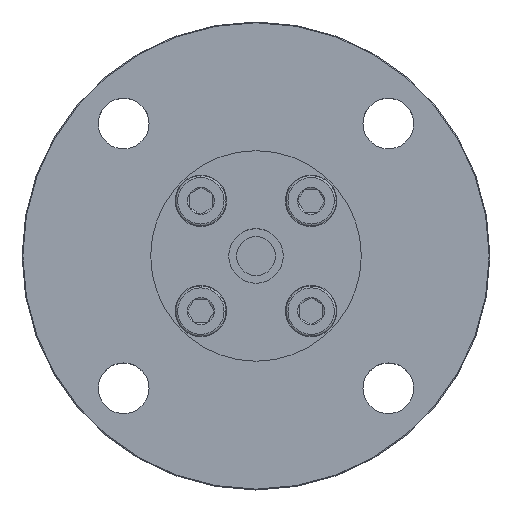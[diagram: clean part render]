
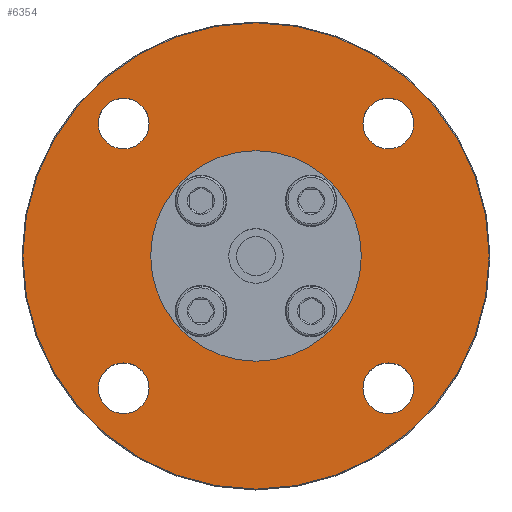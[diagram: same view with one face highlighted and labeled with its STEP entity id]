
A CAD part, top view. The second image highlights one B-rep face of the part: STEP entity #6354.
In plain terms, the highlighted planar face has unit normal (0, 0, 1).
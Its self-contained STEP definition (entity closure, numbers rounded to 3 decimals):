
#113 = ORIENTED_EDGE ( 'NONE', *, *, #3142, .F. ) ;
#118 = EDGE_LOOP ( 'NONE', ( #237, #113 ) ) ;
#152 = EDGE_LOOP ( 'NONE', ( #196, #313 ) ) ;
#192 = ORIENTED_EDGE ( 'NONE', *, *, #3294, .T. ) ;
#196 = ORIENTED_EDGE ( 'NONE', *, *, #3133, .F. ) ;
#237 = ORIENTED_EDGE ( 'NONE', *, *, #3325, .F. ) ;
#260 = EDGE_LOOP ( 'NONE', ( #1334, #1332 ) ) ;
#274 = ORIENTED_EDGE ( 'NONE', *, *, #3395, .T. ) ;
#313 = ORIENTED_EDGE ( 'NONE', *, *, #3139, .F. ) ;
#1118 = DIRECTION ( 'NONE',  ( 1., 0., 0. ) ) ;
#1124 = DIRECTION ( 'NONE',  ( 0., 0., 1. ) ) ;
#1166 = DIRECTION ( 'NONE',  ( 0., 0., 1. ) ) ;
#1167 = CARTESIAN_POINT ( 'NONE',  ( 33.941, 33.941, 0. ) ) ;
#1190 = DIRECTION ( 'NONE',  ( -1., 0., 0. ) ) ;
#1191 = CARTESIAN_POINT ( 'NONE',  ( 33.941, -33.941, 0. ) ) ;
#1207 = CARTESIAN_POINT ( 'NONE',  ( -33.941, 33.941, 0. ) ) ;
#1233 = DIRECTION ( 'NONE',  ( 0., -1., 0. ) ) ;
#1245 = DIRECTION ( 'NONE',  ( 0., 0., 1. ) ) ;
#1274 = ORIENTED_EDGE ( 'NONE', *, *, #3145, .F. ) ;
#1281 = ORIENTED_EDGE ( 'NONE', *, *, #3313, .F. ) ;
#1304 = ORIENTED_EDGE ( 'NONE', *, *, #3451, .F. ) ;
#1332 = ORIENTED_EDGE ( 'NONE', *, *, #3446, .F. ) ;
#1334 = ORIENTED_EDGE ( 'NONE', *, *, #3319, .F. ) ;
#1386 = ORIENTED_EDGE ( 'NONE', *, *, #3207, .F. ) ;
#2641 = DIRECTION ( 'NONE',  ( -1., 0., 0. ) ) ;
#2718 = CARTESIAN_POINT ( 'NONE',  ( 33.941, -33.941, 0. ) ) ;
#2769 = VERTEX_POINT ( 'NONE', #15121 ) ;
#2827 = DIRECTION ( 'NONE',  ( 0., 0., 1. ) ) ;
#2848 = VERTEX_POINT ( 'NONE', #14999 ) ;
#2867 = VERTEX_POINT ( 'NONE', #15089 ) ;
#2872 = VERTEX_POINT ( 'NONE', #15094 ) ;
#2928 = VERTEX_POINT ( 'NONE', #14975 ) ;
#2931 = VERTEX_POINT ( 'NONE', #15046 ) ;
#2944 = VERTEX_POINT ( 'NONE', #15007 ) ;
#3008 = VERTEX_POINT ( 'NONE', #15102 ) ;
#3018 = VERTEX_POINT ( 'NONE', #14998 ) ;
#3041 = VERTEX_POINT ( 'NONE', #15033 ) ;
#3133 = EDGE_CURVE ( 'NONE', #2867, #3018, #9365, .T. ) ;
#3139 = EDGE_CURVE ( 'NONE', #3018, #2867, #9379, .T. ) ;
#3142 = EDGE_CURVE ( 'NONE', #2848, #2872, #9388, .T. ) ;
#3145 = EDGE_CURVE ( 'NONE', #2944, #3041, #9392, .T. ) ;
#3207 = EDGE_CURVE ( 'NONE', #3041, #2944, #9472, .T. ) ;
#3294 = EDGE_CURVE ( 'NONE', #2931, #2928, #9575, .T. ) ;
#3313 = EDGE_CURVE ( 'NONE', #9148, #9152, #9603, .T. ) ;
#3319 = EDGE_CURVE ( 'NONE', #2769, #3008, #9609, .T. ) ;
#3325 = EDGE_CURVE ( 'NONE', #2872, #2848, #9615, .T. ) ;
#3395 = EDGE_CURVE ( 'NONE', #2928, #2931, #9735, .T. ) ;
#3446 = EDGE_CURVE ( 'NONE', #3008, #2769, #9840, .T. ) ;
#3451 = EDGE_CURVE ( 'NONE', #9152, #9148, #9849, .T. ) ;
#3931 = AXIS2_PLACEMENT_3D ( 'NONE', #2718, #2827, #2641 ) ;
#3934 = AXIS2_PLACEMENT_3D ( 'NONE', #1191, #1166, #1190 ) ;
#3935 = AXIS2_PLACEMENT_3D ( 'NONE', #1167, #1124, #1233 ) ;
#3937 = AXIS2_PLACEMENT_3D ( 'NONE', #1207, #1245, #1118 ) ;
#3970 = AXIS2_PLACEMENT_3D ( 'NONE', #9050, #24134, #24133 ) ;
#4015 = AXIS2_PLACEMENT_3D ( 'NONE', #17753, #18003, #19068 ) ;
#4026 = AXIS2_PLACEMENT_3D ( 'NONE', #18737, #17756, #17757 ) ;
#4029 = AXIS2_PLACEMENT_3D ( 'NONE', #17892, #17820, #18983 ) ;
#4032 = AXIS2_PLACEMENT_3D ( 'NONE', #18342, #18346, #18361 ) ;
#4137 = EDGE_LOOP ( 'NONE', ( #274, #192 ) ) ;
#4209 = EDGE_LOOP ( 'NONE', ( #1274, #1386 ) ) ;
#4222 = EDGE_LOOP ( 'NONE', ( #1281, #1304 ) ) ;
#6354 = ADVANCED_FACE ( 'NONE', ( #12229, #12234, #12220, #12233, #12227, #12235 ), #16835, .T. ) ;
#9050 = CARTESIAN_POINT ( 'NONE',  ( -33.941, 33.941, 0. ) ) ;
#9148 = VERTEX_POINT ( 'NONE', #21074 ) ;
#9152 = VERTEX_POINT ( 'NONE', #21075 ) ;
#9365 = CIRCLE ( 'NONE', #3931, 6.5 ) ;
#9379 = CIRCLE ( 'NONE', #3934, 6.5 ) ;
#9388 = CIRCLE ( 'NONE', #3935, 6.5 ) ;
#9392 = CIRCLE ( 'NONE', #3937, 6.5 ) ;
#9472 = CIRCLE ( 'NONE', #3970, 6.5 ) ;
#9575 = CIRCLE ( 'NONE', #4015, 59.8 ) ;
#9603 = CIRCLE ( 'NONE', #4026, 27. ) ;
#9609 = CIRCLE ( 'NONE', #4029, 6.5 ) ;
#9615 = CIRCLE ( 'NONE', #4032, 6.5 ) ;
#9735 = CIRCLE ( 'NONE', #10606, 59.8 ) ;
#9840 = CIRCLE ( 'NONE', #10630, 6.5 ) ;
#9849 = CIRCLE ( 'NONE', #10634, 27. ) ;
#10343 = CARTESIAN_POINT ( 'NONE',  ( 0., 0., 0. ) ) ;
#10490 = DIRECTION ( 'NONE',  ( 1., 0., 0. ) ) ;
#10493 = DIRECTION ( 'NONE',  ( 0., 0., 1. ) ) ;
#10606 = AXIS2_PLACEMENT_3D ( 'NONE', #18959, #19033, #18953 ) ;
#10630 = AXIS2_PLACEMENT_3D ( 'NONE', #18977, #17821, #19110 ) ;
#10634 = AXIS2_PLACEMENT_3D ( 'NONE', #10343, #10493, #10490 ) ;
#11059 = AXIS2_PLACEMENT_3D ( 'NONE', #16836, #16831, #16838 ) ;
#12220 = FACE_BOUND ( 'NONE', #152, .T. ) ;
#12227 = FACE_BOUND ( 'NONE', #4209, .T. ) ;
#12229 = FACE_OUTER_BOUND ( 'NONE', #4137, .T. ) ;
#12233 = FACE_BOUND ( 'NONE', #260, .T. ) ;
#12234 = FACE_BOUND ( 'NONE', #118, .T. ) ;
#12235 = FACE_BOUND ( 'NONE', #4222, .T. ) ;
#14975 = CARTESIAN_POINT ( 'NONE',  ( 59.8, 0., 0. ) ) ;
#14998 = CARTESIAN_POINT ( 'NONE',  ( 27.441, -33.941, 0. ) ) ;
#14999 = CARTESIAN_POINT ( 'NONE',  ( 27.441, 33.941, 0. ) ) ;
#15007 = CARTESIAN_POINT ( 'NONE',  ( -27.441, 33.941, 0. ) ) ;
#15033 = CARTESIAN_POINT ( 'NONE',  ( -40.441, 33.941, 0. ) ) ;
#15046 = CARTESIAN_POINT ( 'NONE',  ( -59.8, 0., 0. ) ) ;
#15089 = CARTESIAN_POINT ( 'NONE',  ( 40.441, -33.941, 0. ) ) ;
#15094 = CARTESIAN_POINT ( 'NONE',  ( 40.441, 33.941, 0. ) ) ;
#15102 = CARTESIAN_POINT ( 'NONE',  ( -40.441, -33.941, 0. ) ) ;
#15121 = CARTESIAN_POINT ( 'NONE',  ( -27.441, -33.941, 0. ) ) ;
#16831 = DIRECTION ( 'NONE',  ( 0., 0., 1. ) ) ;
#16835 = PLANE ( 'NONE',  #11059 ) ;
#16836 = CARTESIAN_POINT ( 'NONE',  ( 0., 0., 0. ) ) ;
#16838 = DIRECTION ( 'NONE',  ( 1., 0., 0. ) ) ;
#17753 = CARTESIAN_POINT ( 'NONE',  ( 0., 0., 0. ) ) ;
#17756 = DIRECTION ( 'NONE',  ( 0., 0., 1. ) ) ;
#17757 = DIRECTION ( 'NONE',  ( 1., 0., 0. ) ) ;
#17820 = DIRECTION ( 'NONE',  ( 0., 0., 1. ) ) ;
#17821 = DIRECTION ( 'NONE',  ( 0., 0., 1. ) ) ;
#17892 = CARTESIAN_POINT ( 'NONE',  ( -33.941, -33.941, 0. ) ) ;
#18003 = DIRECTION ( 'NONE',  ( 0., 0., 1. ) ) ;
#18342 = CARTESIAN_POINT ( 'NONE',  ( 33.941, 33.941, 0. ) ) ;
#18346 = DIRECTION ( 'NONE',  ( 0., 0., 1. ) ) ;
#18361 = DIRECTION ( 'NONE',  ( 0., -1., 0. ) ) ;
#18737 = CARTESIAN_POINT ( 'NONE',  ( 0., 0., 0. ) ) ;
#18953 = DIRECTION ( 'NONE',  ( 1., 0., 0. ) ) ;
#18959 = CARTESIAN_POINT ( 'NONE',  ( 0., 0., 0. ) ) ;
#18977 = CARTESIAN_POINT ( 'NONE',  ( -33.941, -33.941, 0. ) ) ;
#18983 = DIRECTION ( 'NONE',  ( 0., 1., 0. ) ) ;
#19033 = DIRECTION ( 'NONE',  ( 0., 0., 1. ) ) ;
#19068 = DIRECTION ( 'NONE',  ( 1., 0., 0. ) ) ;
#19110 = DIRECTION ( 'NONE',  ( 0., 1., 0. ) ) ;
#21074 = CARTESIAN_POINT ( 'NONE',  ( 27., 0., 0. ) ) ;
#21075 = CARTESIAN_POINT ( 'NONE',  ( -27., 0., 0. ) ) ;
#24133 = DIRECTION ( 'NONE',  ( 1., 0., 0. ) ) ;
#24134 = DIRECTION ( 'NONE',  ( 0., 0., 1. ) ) ;
